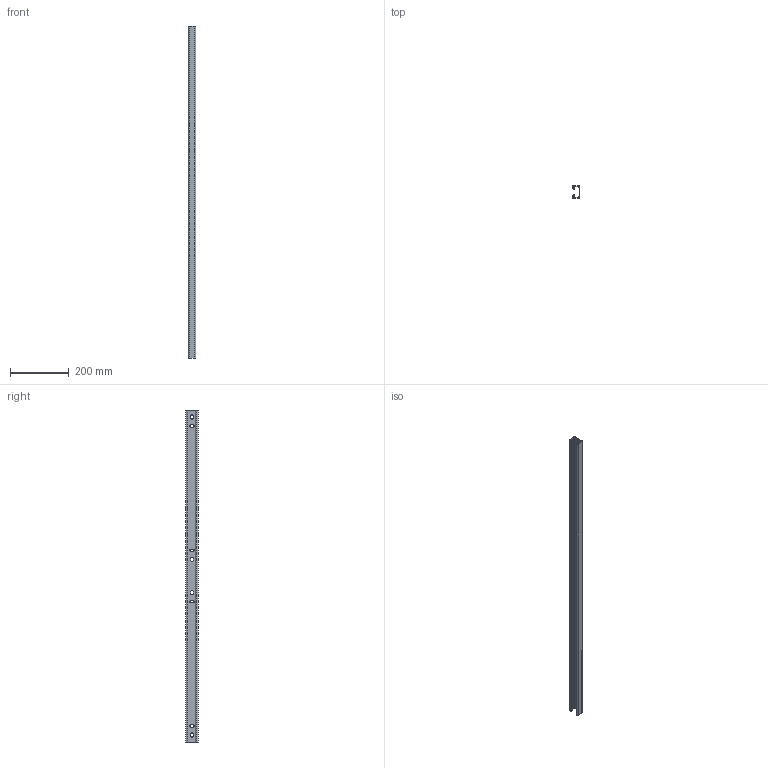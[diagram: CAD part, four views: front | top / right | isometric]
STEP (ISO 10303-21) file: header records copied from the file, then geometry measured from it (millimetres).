
FILE_DESCRIPTION (( 'STEP AP203' ), '1' );
FILE_NAME ('45969.step', '2013-04-03T09:48:53', ( '' ), ( '' ), 'SwSTEP 2.0', 'SolidWorks 2010', '' );
FILE_SCHEMA (( 'CONFIG_CONTROL_DESIGN' ));
Length unit declared in the file: inch
Products named in the file (2): 45969; 45467003
Assembly tree (1 placements, depth 2):
  45969
    45467003
Bounding box: 25.4 x 41.27 x 1134.16 mm (x, y, z)
Volume: 282072.4 mm3; surface area: 240494 mm2
Topology: 1 solids, 1 shells, 66 faces, 192 edges, 128 vertices
Faces by surface type: plane 34, cylinder 32
Entity records: 2432 total; most frequent: DIRECTION 396, CARTESIAN_POINT 390, ORIENTED_EDGE 384, EDGE_CURVE 192, AXIS2_PLACEMENT_3D 134, VERTEX_POINT 128, LINE 128, VECTOR 128
